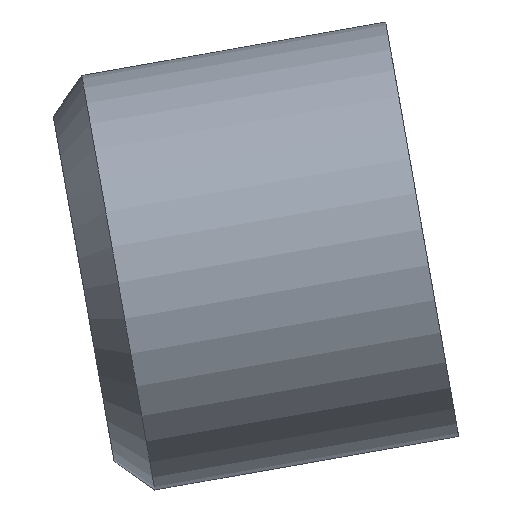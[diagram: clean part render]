
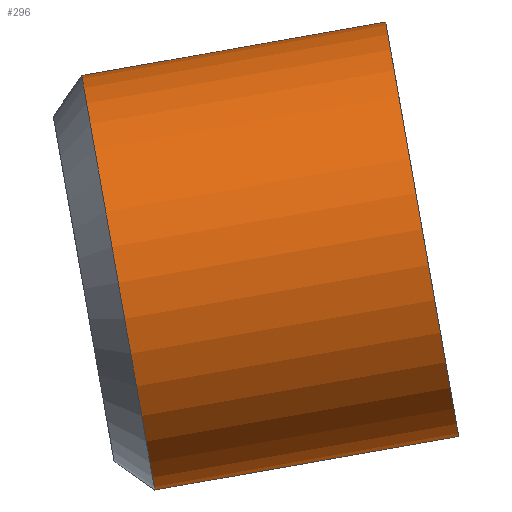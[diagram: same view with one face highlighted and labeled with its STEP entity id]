
A CAD part, left-side view. The second image highlights one B-rep face of the part: STEP entity #296.
In plain terms, the highlighted cylindrical face has radius 6 mm (diameter 12 mm), a partial arc.
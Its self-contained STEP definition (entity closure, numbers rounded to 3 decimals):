
#21=CYLINDRICAL_SURFACE('',#328,6.);
#26=CIRCLE('',#325,6.);
#27=CIRCLE('',#329,6.);
#39=FACE_OUTER_BOUND('',#55,.T.);
#55=EDGE_LOOP('',(#217,#218,#219,#220));
#81=LINE('',#454,#112);
#84=LINE('',#460,#115);
#112=VECTOR('',#369,10.);
#115=VECTOR('',#374,10.);
#137=VERTEX_POINT('',#435);
#139=VERTEX_POINT('',#441);
#143=VERTEX_POINT('',#453);
#145=VERTEX_POINT('',#459);
#167=EDGE_CURVE('',#137,#139,#26,.T.);
#171=EDGE_CURVE('',#139,#143,#81,.T.);
#174=EDGE_CURVE('',#137,#145,#84,.T.);
#175=EDGE_CURVE('',#143,#145,#27,.T.);
#217=ORIENTED_EDGE('',*,*,#167,.F.);
#218=ORIENTED_EDGE('',*,*,#174,.T.);
#219=ORIENTED_EDGE('',*,*,#175,.F.);
#220=ORIENTED_EDGE('',*,*,#171,.F.);
#296=ADVANCED_FACE('',(#39),#21,.T.);
#325=AXIS2_PLACEMENT_3D('',#445,#360,#361);
#328=AXIS2_PLACEMENT_3D('',#458,#372,#373);
#329=AXIS2_PLACEMENT_3D('',#461,#375,#376);
#360=DIRECTION('center_axis',(0.,0.985,-0.174));
#361=DIRECTION('ref_axis',(0.,0.174,0.985));
#369=DIRECTION('',(0.,-0.985,0.174));
#372=DIRECTION('center_axis',(0.,-0.985,0.174));
#373=DIRECTION('ref_axis',(0.,0.174,0.985));
#374=DIRECTION('',(0.,-0.985,0.174));
#375=DIRECTION('center_axis',(0.,-0.985,0.174));
#376=DIRECTION('ref_axis',(0.,0.174,0.985));
#435=CARTESIAN_POINT('',(48.726,-281.657,-10.428));
#441=CARTESIAN_POINT('',(48.726,-279.573,1.39));
#445=CARTESIAN_POINT('Origin',(48.726,-280.615,-4.519));
#453=CARTESIAN_POINT('',(48.726,-288.239,2.918));
#454=CARTESIAN_POINT('',(48.726,-278.588,1.216));
#458=CARTESIAN_POINT('Origin',(48.726,-279.63,-4.693));
#459=CARTESIAN_POINT('',(48.726,-290.323,-8.9));
#460=CARTESIAN_POINT('',(48.726,-280.672,-10.602));
#461=CARTESIAN_POINT('Origin',(48.726,-289.281,-2.991));
